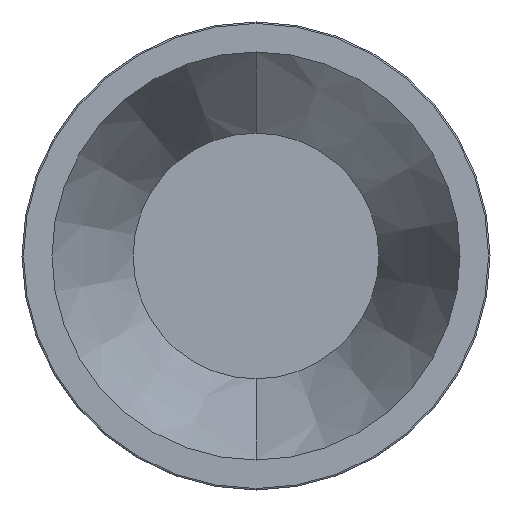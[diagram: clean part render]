
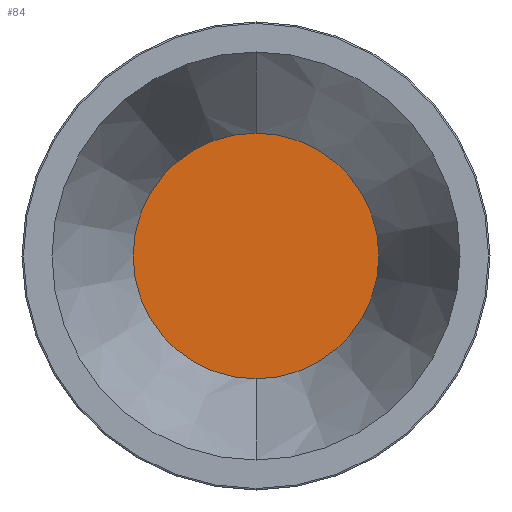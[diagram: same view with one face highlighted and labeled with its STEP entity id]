
A CAD part, front view. The second image highlights one B-rep face of the part: STEP entity #84.
In plain terms, the highlighted planar face has unit normal (0, -1, 0).
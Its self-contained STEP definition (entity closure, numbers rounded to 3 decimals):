
#84 = ADVANCED_FACE ( 'NONE', ( #713 ), #612, .F. ) ;
#143 = CARTESIAN_POINT ( 'NONE',  ( 0., 0., -25. ) ) ;
#280 = CIRCLE ( 'NONE', #343, 25. ) ;
#326 = EDGE_CURVE ( 'NONE', #668, #380, #280, .T. ) ;
#343 = AXIS2_PLACEMENT_3D ( 'NONE', #800, #951, #704 ) ;
#362 = EDGE_CURVE ( 'NONE', #380, #668, #786, .T. ) ;
#380 = VERTEX_POINT ( 'NONE', #143 ) ;
#381 = ORIENTED_EDGE ( 'NONE', *, *, #326, .F. ) ;
#595 = EDGE_LOOP ( 'NONE', ( #780, #381 ) ) ;
#612 = PLANE ( 'NONE',  #687 ) ;
#623 = CARTESIAN_POINT ( 'NONE',  ( 0., 0., 0. ) ) ;
#663 = CARTESIAN_POINT ( 'NONE',  ( 0., 0., 0. ) ) ;
#668 = VERTEX_POINT ( 'NONE', #936 ) ;
#670 = DIRECTION ( 'NONE',  ( 0., 1., 0. ) ) ;
#675 = DIRECTION ( 'NONE',  ( 0., 0., 1. ) ) ;
#687 = AXIS2_PLACEMENT_3D ( 'NONE', #663, #670, #675 ) ;
#704 = DIRECTION ( 'NONE',  ( 0., 0., 1. ) ) ;
#713 = FACE_OUTER_BOUND ( 'NONE', #595, .T. ) ;
#722 = AXIS2_PLACEMENT_3D ( 'NONE', #623, #962, #872 ) ;
#780 = ORIENTED_EDGE ( 'NONE', *, *, #362, .F. ) ;
#786 = CIRCLE ( 'NONE', #722, 25. ) ;
#800 = CARTESIAN_POINT ( 'NONE',  ( 0., 0., 0. ) ) ;
#872 = DIRECTION ( 'NONE',  ( 0., 0., 1. ) ) ;
#936 = CARTESIAN_POINT ( 'NONE',  ( 0., 0., 25. ) ) ;
#951 = DIRECTION ( 'NONE',  ( 0., 1., 0. ) ) ;
#962 = DIRECTION ( 'NONE',  ( 0., 1., 0. ) ) ;
